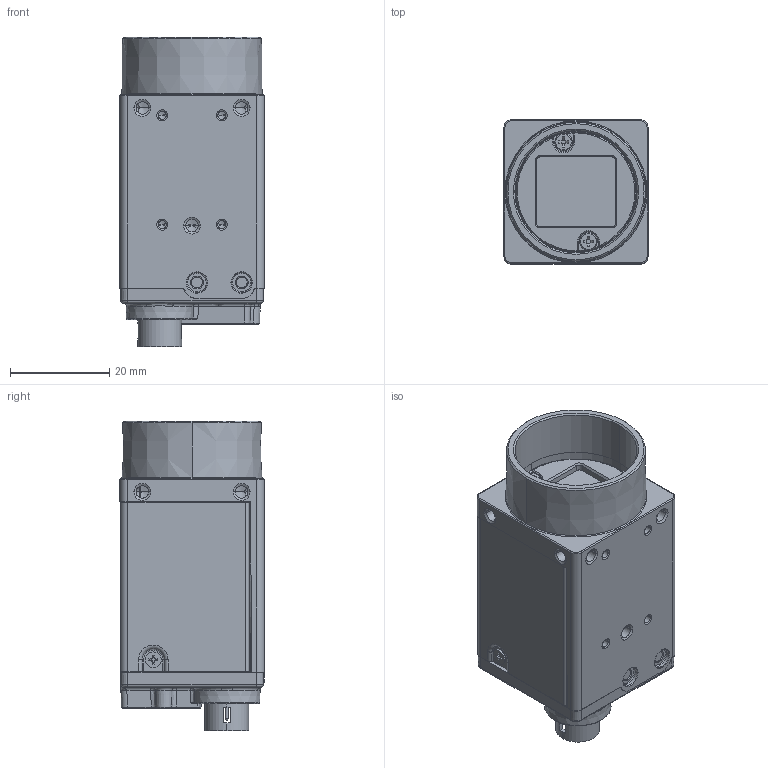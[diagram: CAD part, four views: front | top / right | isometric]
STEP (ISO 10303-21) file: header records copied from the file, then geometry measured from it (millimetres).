
FILE_DESCRIPTION((''),'2;1');
FILE_NAME('DH9-RDI000508-6035_AF2_1','2024-03-26T17:02:44',('21511'),(''),'CREO PARAMETRIC BY PTC INC, 2020184','CREO PARAMETRIC BY PTC INC, 2020184','');
FILE_SCHEMA(('CONFIG_CONTROL_DESIGN','SHAPE_APPEARANCE_LAYERS_GROUPS'));
Products named in the file (1): DH9-RDI000508-6035_AF2_1
Bounding box: 29 x 29 x 62.35 mm (x, y, z)
Volume: 36494 mm3; surface area: 15493 mm2
Topology: 1 solids, 9 shells, 1586 faces, 4361 edges, 2741 vertices
Faces by surface type: plane 844, cylinder 408, cone 166, bspline 69, torus 67, extrusion 19, sphere 13
Entity records: 68049 total; most frequent: CARTESIAN_POINT 14060, ORIENTED_EDGE 8590, DIRECTION 7913, PRESENTATION_STYLE_ASSIGNMENT 4400, STYLED_ITEM 4296, CURVE_STYLE 4295, EDGE_CURVE 4295, VECTOR 2855
